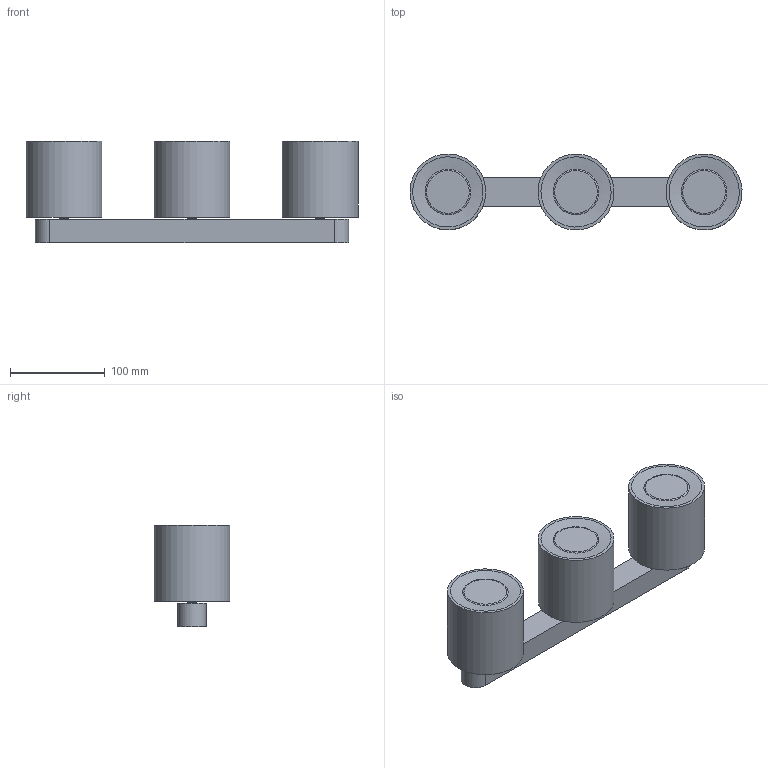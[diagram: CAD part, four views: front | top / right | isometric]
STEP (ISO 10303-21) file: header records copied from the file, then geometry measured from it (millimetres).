
FILE_DESCRIPTION(/* description */ (''),/* implementation_level */ '2;1');
FILE_NAME(/* name */ 'D:\TK Lighting\2021\Vico\6510\Vico6510.stp',/* time_stamp */ '2021-02-01T21:14:41+01:00',/* author */ ('Admin'),/* organization */ (''),/* preprocessor_version */ 'ST-DEVELOPER v16.5',/* originating_system */ 'Autodesk Inventor 2017',/* authorisation */ '');
FILE_SCHEMA (('AUTOMOTIVE_DESIGN { 1 0 10303 214 3 1 1 }'));
Length unit declared in the file: millimetre
Products named in the file (3): Vico6510; Zawiesie 6510; Klosz
Assembly tree (4 placements, depth 2):
  Vico6510
    Zawiesie 6510
    Klosz  x3
Bounding box: 349.82 x 79.93 x 107 mm (x, y, z)
Volume: 426200 mm3; surface area: 210061.3 mm2
Topology: 4 solids, 7 shells, 60 faces, 90 edges, 59 vertices
Faces by surface type: plane 31, cylinder 20, cone 6, torus 3
Full cylindrical faces by diameter (mm): 10 x6, 48 x3, 52 x3, 76 x3, 80 x3
Entity records: 728 total; most frequent: DIRECTION 126, CARTESIAN_POINT 95, ORIENTED_EDGE 64, AXIS2_PLACEMENT_3D 59, EDGE_LOOP 46, EDGE_CURVE 32, STYLED_ITEM 30, FACE_OUTER_BOUND 28
